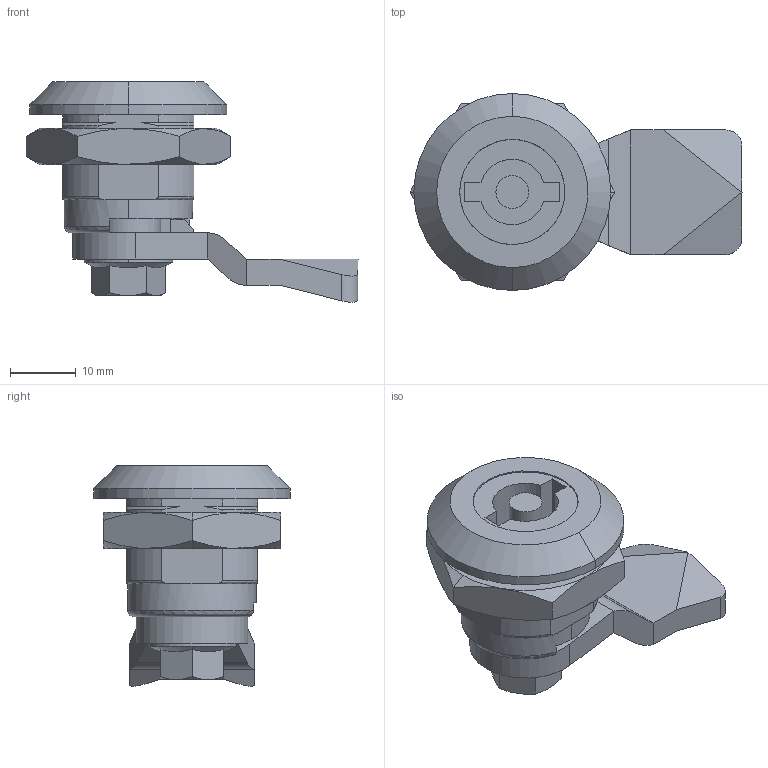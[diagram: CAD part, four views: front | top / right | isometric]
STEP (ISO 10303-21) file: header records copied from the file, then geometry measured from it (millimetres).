
FILE_DESCRIPTION (( 'STEP AP214' ), '1' );
FILE_NAME ('LC 5DB.Z.STEP', '2020-03-18T13:46:23', ( '' ), ( '' ), 'SwSTEP 2.0', 'SolidWorks 2018', '' );
FILE_SCHEMA (( 'AUTOMOTIVE_DESIGN' ));
Length unit declared in the file: millimetre
Products named in the file (1): LC 5DB.Z
Bounding box: 50.59 x 30 x 33.58 mm (x, y, z)
Volume: 12976.7 mm3; surface area: 8906 mm2
Topology: 4 solids, 4 shells, 178 faces, 469 edges, 305 vertices
Faces by surface type: plane 90, cylinder 55, cone 28, torus 5
Entity records: 5778 total; most frequent: CARTESIAN_POINT 1350, ORIENTED_EDGE 938, DIRECTION 881, EDGE_CURVE 469, AXIS2_PLACEMENT_3D 326, VERTEX_POINT 305, LINE 229, VECTOR 229
